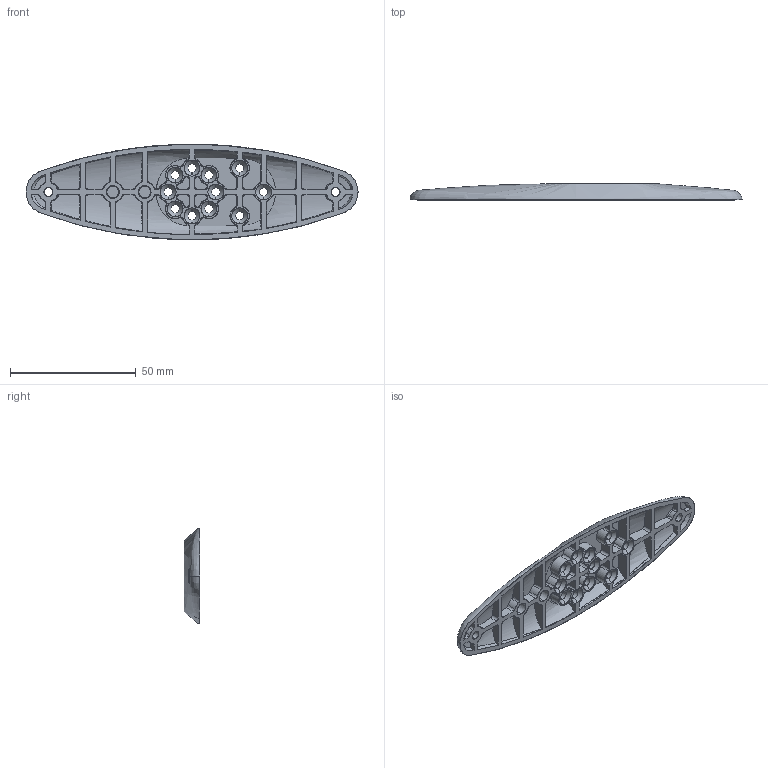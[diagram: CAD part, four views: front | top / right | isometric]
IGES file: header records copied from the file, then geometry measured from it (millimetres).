
Start section: SolidWorks IGES file using analytic representation for surfaces
Global section: file name: C:\Users\Achilles\Dropbox\BR-Engineering\Models\Thruster-Draft-05e\T100-P-BRACKET-R1\T100-P-BRACKET-R1.IGS; native system: SolidWorks 2016; preprocessor: SolidWorks 2016; author: Achilles; date: 190108.152045; units: millimetre
Bounding box: 132.08 x 6.35 x 38.1 mm (x, y, z)
Surface area: 11840.3 mm2 (no closed solid volume)
Topology: 0 solids, 0 shells, 338 faces, 5511 edges, 5511 vertices
Faces by surface type: bspline 206, revolution 132
